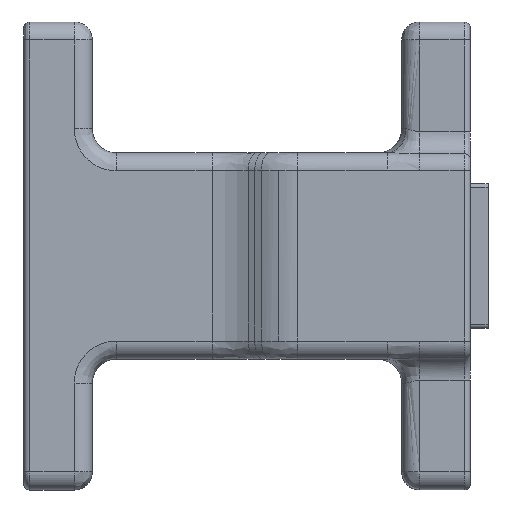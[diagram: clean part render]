
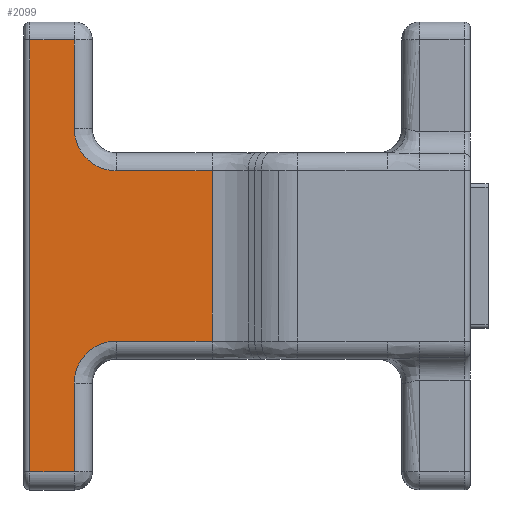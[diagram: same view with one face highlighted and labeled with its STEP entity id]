
A CAD part, top view. The second image highlights one B-rep face of the part: STEP entity #2099.
In plain terms, the highlighted free-form (B-spline) face has degree [1, 1] with [2, 2] control points.
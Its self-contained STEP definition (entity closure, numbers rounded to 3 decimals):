
#1507=CARTESIAN_POINT('',(0.5,-18.,11.));
#1508=VERTEX_POINT('',#1507);
#1657=CARTESIAN_POINT('',(0.5,18.,11.));
#1658=VERTEX_POINT('',#1657);
#1689=CARTESIAN_POINT('',(0.5,-18.,11.));
#1690=CARTESIAN_POINT('',(0.5,-10.8,11.));
#1691=CARTESIAN_POINT('',(0.5,-3.6,11.));
#1692=CARTESIAN_POINT('',(0.5,3.6,11.));
#1693=CARTESIAN_POINT('',(0.5,10.8,11.));
#1694=CARTESIAN_POINT('',(0.5,18.,11.));
#1695=B_SPLINE_CURVE_WITH_KNOTS('',5,(#1689,#1690,#1691,#1692,#1693,#1694),.UNSPECIFIED.,.F.,.U.,(6,6),(0.,36.),.UNSPECIFIED.);
#1696=EDGE_CURVE('',#1508,#1658,#1695,.T.);
#1943=CARTESIAN_POINT('',(4.2,18.,11.));
#1944=VERTEX_POINT('',#1943);
#1945=CARTESIAN_POINT('',(0.5,18.,11.));
#1946=CARTESIAN_POINT('',(1.24,18.,11.));
#1947=CARTESIAN_POINT('',(1.98,18.,11.));
#1948=CARTESIAN_POINT('',(2.72,18.,11.));
#1949=CARTESIAN_POINT('',(3.46,18.,11.));
#1950=CARTESIAN_POINT('',(4.2,18.,11.));
#1951=B_SPLINE_CURVE_WITH_KNOTS('',5,(#1945,#1946,#1947,#1948,#1949,#1950),.UNSPECIFIED.,.F.,.U.,(6,6),(0.,3.7),.UNSPECIFIED.);
#1952=EDGE_CURVE('',#1658,#1944,#1951,.T.);
#1986=CARTESIAN_POINT('',(0.5,-18.,11.));
#1987=CARTESIAN_POINT('',(0.5,18.,11.));
#1988=CARTESIAN_POINT('',(15.695,-18.,11.));
#1989=CARTESIAN_POINT('',(15.695,18.,11.));
#1990=B_SPLINE_SURFACE_WITH_KNOTS('',1,1,((#1986,#1987),(#1988,#1989)),.PLANE_SURF.,.F.,.F.,.U.,(2,2),(2,2),(0.,1.),(0.,2.369),.UNSPECIFIED.);
#1991=ORIENTED_EDGE('',*,*,#1696,.F.);
#1992=CARTESIAN_POINT('',(4.2,-18.,11.));
#1993=VERTEX_POINT('',#1992);
#1994=CARTESIAN_POINT('',(4.2,-18.,11.));
#1995=CARTESIAN_POINT('',(3.46,-18.,11.));
#1996=CARTESIAN_POINT('',(2.72,-18.,11.));
#1997=CARTESIAN_POINT('',(1.98,-18.,11.));
#1998=CARTESIAN_POINT('',(1.24,-18.,11.));
#1999=CARTESIAN_POINT('',(0.5,-18.,11.));
#2000=B_SPLINE_CURVE_WITH_KNOTS('',5,(#1994,#1995,#1996,#1997,#1998,#1999),.UNSPECIFIED.,.F.,.U.,(6,6),(0.,3.7),.UNSPECIFIED.);
#2001=EDGE_CURVE('',#1993,#1508,#2000,.T.);
#2002=ORIENTED_EDGE('',*,*,#2001,.F.);
#2003=CARTESIAN_POINT('',(4.2,-10.6,11.));
#2004=VERTEX_POINT('',#2003);
#2005=CARTESIAN_POINT('',(4.2,-10.6,11.));
#2006=CARTESIAN_POINT('',(4.2,-12.08,11.));
#2007=CARTESIAN_POINT('',(4.2,-13.56,11.));
#2008=CARTESIAN_POINT('',(4.2,-15.04,11.));
#2009=CARTESIAN_POINT('',(4.2,-16.52,11.));
#2010=CARTESIAN_POINT('',(4.2,-18.,11.));
#2011=B_SPLINE_CURVE_WITH_KNOTS('',5,(#2005,#2006,#2007,#2008,#2009,#2010),.UNSPECIFIED.,.F.,.U.,(6,6),(0.,7.4),.UNSPECIFIED.);
#2012=EDGE_CURVE('',#2004,#1993,#2011,.T.);
#2013=ORIENTED_EDGE('',*,*,#2012,.F.);
#2014=CARTESIAN_POINT('',(7.7,-7.1,11.));
#2015=VERTEX_POINT('',#2014);
#2016=CARTESIAN_POINT('',(7.7,-7.1,11.));
#2017=CARTESIAN_POINT('',(7.425,-7.1,11.));
#2018=CARTESIAN_POINT('',(7.15,-7.127,11.));
#2019=CARTESIAN_POINT('',(6.879,-7.181,11.));
#2020=CARTESIAN_POINT('',(6.35,-7.341,11.));
#2021=CARTESIAN_POINT('',(5.863,-7.602,11.));
#2022=CARTESIAN_POINT('',(5.633,-7.755,11.));
#2023=CARTESIAN_POINT('',(5.206,-8.106,11.));
#2024=CARTESIAN_POINT('',(4.855,-8.533,11.));
#2025=CARTESIAN_POINT('',(4.702,-8.763,11.));
#2026=CARTESIAN_POINT('',(4.441,-9.25,11.));
#2027=CARTESIAN_POINT('',(4.281,-9.779,11.));
#2028=CARTESIAN_POINT('',(4.227,-10.05,11.));
#2029=CARTESIAN_POINT('',(4.2,-10.325,11.));
#2030=CARTESIAN_POINT('',(4.2,-10.6,11.));
#2031=B_SPLINE_CURVE_WITH_KNOTS('',5,(#2016,#2017,#2018,#2019,#2020,#2021,#2022,#2023,#2024,#2025,#2026,#2027,#2028,#2029,#2030),.UNSPECIFIED.,.F.,.U.,(6,3,3,3,6),(0.,0.393,0.785,1.178,1.571),.UNSPECIFIED.);
#2032=EDGE_CURVE('',#2015,#2004,#2031,.T.);
#2033=ORIENTED_EDGE('',*,*,#2032,.F.);
#2034=CARTESIAN_POINT('',(15.695,-7.1,11.));
#2035=VERTEX_POINT('',#2034);
#2036=CARTESIAN_POINT('',(15.695,-7.1,11.));
#2037=CARTESIAN_POINT('',(14.096,-7.1,11.));
#2038=CARTESIAN_POINT('',(12.497,-7.1,11.));
#2039=CARTESIAN_POINT('',(10.898,-7.1,11.));
#2040=CARTESIAN_POINT('',(9.299,-7.1,11.));
#2041=CARTESIAN_POINT('',(7.7,-7.1,11.));
#2042=B_SPLINE_CURVE_WITH_KNOTS('',5,(#2036,#2037,#2038,#2039,#2040,#2041),.UNSPECIFIED.,.F.,.U.,(6,6),(0.,7.995),.UNSPECIFIED.);
#2043=EDGE_CURVE('',#2035,#2015,#2042,.T.);
#2044=ORIENTED_EDGE('',*,*,#2043,.F.);
#2045=CARTESIAN_POINT('',(15.695,7.1,11.));
#2046=VERTEX_POINT('',#2045);
#2047=CARTESIAN_POINT('',(15.695,-7.1,11.));
#2048=CARTESIAN_POINT('',(15.695,-4.26,11.));
#2049=CARTESIAN_POINT('',(15.695,-1.42,11.));
#2050=CARTESIAN_POINT('',(15.695,1.42,11.));
#2051=CARTESIAN_POINT('',(15.695,4.26,11.));
#2052=CARTESIAN_POINT('',(15.695,7.1,11.));
#2053=B_SPLINE_CURVE_WITH_KNOTS('',5,(#2047,#2048,#2049,#2050,#2051,#2052),.UNSPECIFIED.,.F.,.U.,(6,6),(0.,2.367),.UNSPECIFIED.);
#2054=EDGE_CURVE('',#2035,#2046,#2053,.T.);
#2055=ORIENTED_EDGE('',*,*,#2054,.T.);
#2056=CARTESIAN_POINT('',(7.7,7.1,11.));
#2057=VERTEX_POINT('',#2056);
#2058=CARTESIAN_POINT('',(7.7,7.1,11.));
#2059=CARTESIAN_POINT('',(9.299,7.1,11.));
#2060=CARTESIAN_POINT('',(10.898,7.1,11.));
#2061=CARTESIAN_POINT('',(12.497,7.1,11.));
#2062=CARTESIAN_POINT('',(14.096,7.1,11.));
#2063=CARTESIAN_POINT('',(15.695,7.1,11.));
#2064=B_SPLINE_CURVE_WITH_KNOTS('',5,(#2058,#2059,#2060,#2061,#2062,#2063),.UNSPECIFIED.,.F.,.U.,(6,6),(0.,7.995),.UNSPECIFIED.);
#2065=EDGE_CURVE('',#2057,#2046,#2064,.T.);
#2066=ORIENTED_EDGE('',*,*,#2065,.F.);
#2067=CARTESIAN_POINT('',(4.2,10.6,11.));
#2068=VERTEX_POINT('',#2067);
#2069=CARTESIAN_POINT('',(4.2,10.6,11.));
#2070=CARTESIAN_POINT('',(4.2,10.325,11.));
#2071=CARTESIAN_POINT('',(4.227,10.05,11.));
#2072=CARTESIAN_POINT('',(4.281,9.779,11.));
#2073=CARTESIAN_POINT('',(4.441,9.25,11.));
#2074=CARTESIAN_POINT('',(4.702,8.763,11.));
#2075=CARTESIAN_POINT('',(4.855,8.533,11.));
#2076=CARTESIAN_POINT('',(5.206,8.106,11.));
#2077=CARTESIAN_POINT('',(5.633,7.755,11.));
#2078=CARTESIAN_POINT('',(5.863,7.602,11.));
#2079=CARTESIAN_POINT('',(6.35,7.341,11.));
#2080=CARTESIAN_POINT('',(6.879,7.181,11.));
#2081=CARTESIAN_POINT('',(7.15,7.127,11.));
#2082=CARTESIAN_POINT('',(7.425,7.1,11.));
#2083=CARTESIAN_POINT('',(7.7,7.1,11.));
#2084=B_SPLINE_CURVE_WITH_KNOTS('',5,(#2069,#2070,#2071,#2072,#2073,#2074,#2075,#2076,#2077,#2078,#2079,#2080,#2081,#2082,#2083),.UNSPECIFIED.,.F.,.U.,(6,3,3,3,6),(0.,0.393,0.785,1.178,1.571),.UNSPECIFIED.);
#2085=EDGE_CURVE('',#2068,#2057,#2084,.T.);
#2086=ORIENTED_EDGE('',*,*,#2085,.F.);
#2087=CARTESIAN_POINT('',(4.2,18.,11.));
#2088=CARTESIAN_POINT('',(4.2,16.52,11.));
#2089=CARTESIAN_POINT('',(4.2,15.04,11.));
#2090=CARTESIAN_POINT('',(4.2,13.56,11.));
#2091=CARTESIAN_POINT('',(4.2,12.08,11.));
#2092=CARTESIAN_POINT('',(4.2,10.6,11.));
#2093=B_SPLINE_CURVE_WITH_KNOTS('',5,(#2087,#2088,#2089,#2090,#2091,#2092),.UNSPECIFIED.,.F.,.U.,(6,6),(0.,7.4),.UNSPECIFIED.);
#2094=EDGE_CURVE('',#1944,#2068,#2093,.T.);
#2095=ORIENTED_EDGE('',*,*,#2094,.F.);
#2096=ORIENTED_EDGE('',*,*,#1952,.F.);
#2097=EDGE_LOOP('',(#1991,#2002,#2013,#2033,#2044,#2055,#2066,#2086,#2095,#2096));
#2098=FACE_OUTER_BOUND('',#2097,.T.);
#2099=ADVANCED_FACE('',(#2098),#1990,.T.);
